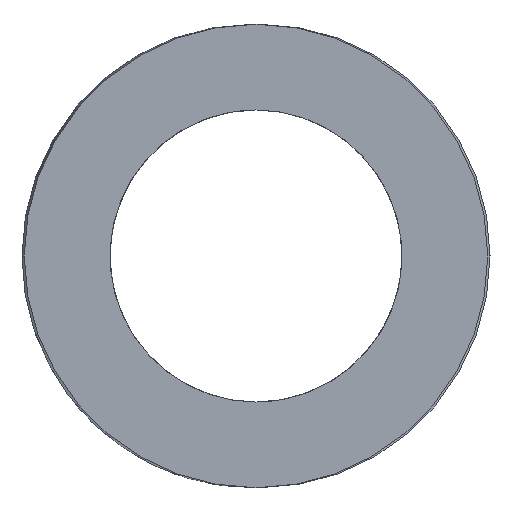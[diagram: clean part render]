
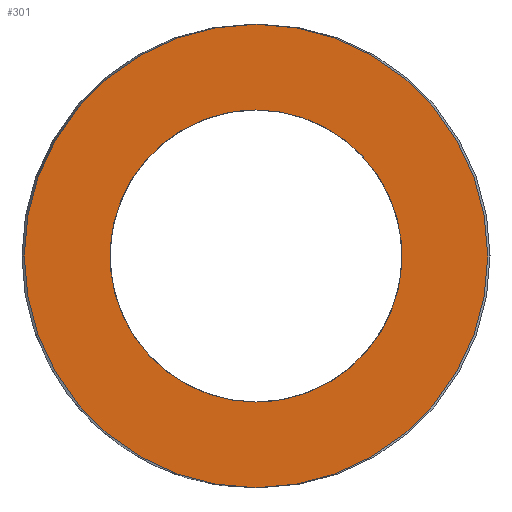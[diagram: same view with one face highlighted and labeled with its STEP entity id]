
A CAD part, left-side view. The second image highlights one B-rep face of the part: STEP entity #301.
In plain terms, the highlighted planar face has unit normal (-1, 0, 0).
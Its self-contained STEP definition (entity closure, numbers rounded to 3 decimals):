
#63=CARTESIAN_POINT('Vertex',(0.,31.1,0.)) ;
#77=CARTESIAN_POINT('Vertex',(0.,-31.1,0.)) ;
#80=CARTESIAN_POINT('Axis2P3D Location',(0.,0.,0.)) ;
#97=CARTESIAN_POINT('Axis2P3D Location',(0.,0.,0.)) ;
#232=CARTESIAN_POINT('Axis2P3D Location',(0.,15.55,0.)) ;
#242=CARTESIAN_POINT('Control Point',(0.,0.,-19.6)) ;
#243=CARTESIAN_POINT('Control Point',(0.,1.952,-19.6)) ;
#244=CARTESIAN_POINT('Control Point',(0.,3.904,-19.357)) ;
#245=CARTESIAN_POINT('Control Point',(0.,5.816,-18.871)) ;
#246=CARTESIAN_POINT('Control Point',(0.,9.478,-17.433)) ;
#247=CARTESIAN_POINT('Control Point',(0.,12.675,-15.142)) ;
#248=CARTESIAN_POINT('Control Point',(0.,14.123,-13.802)) ;
#249=CARTESIAN_POINT('Control Point',(0.,16.653,-10.789)) ;
#250=CARTESIAN_POINT('Control Point',(0.,18.368,-7.249)) ;
#251=CARTESIAN_POINT('Control Point',(0.,19.,-5.38)) ;
#252=CARTESIAN_POINT('Control Point',(0.,19.784,-1.525)) ;
#253=CARTESIAN_POINT('Control Point',(0.,19.6,2.405)) ;
#254=CARTESIAN_POINT('Control Point',(0.,19.262,4.348)) ;
#255=CARTESIAN_POINT('Control Point',(0.,18.11,8.11)) ;
#256=CARTESIAN_POINT('Control Point',(0.,16.071,11.474)) ;
#257=CARTESIAN_POINT('Control Point',(0.,14.846,13.02)) ;
#258=CARTESIAN_POINT('Control Point',(0.,12.037,15.775)) ;
#259=CARTESIAN_POINT('Control Point',(0.,8.639,17.757)) ;
#260=CARTESIAN_POINT('Control Point',(0.,6.824,18.53)) ;
#261=CARTESIAN_POINT('Control Point',(0.,4.349,19.236)) ;
#262=CARTESIAN_POINT('Control Point',(0.,1.809,19.53)) ;
#263=CARTESIAN_POINT('Control Point',(0.,1.206,19.577)) ;
#264=CARTESIAN_POINT('Control Point',(0.,0.603,19.6)) ;
#265=CARTESIAN_POINT('Control Point',(0.,0.,19.6)) ;
#266=CARTESIAN_POINT('Vertex',(0.,0.,-19.6)) ;
#268=CARTESIAN_POINT('Vertex',(0.,0.,19.6)) ;
#272=CARTESIAN_POINT('Control Point',(0.,0.,19.6)) ;
#273=CARTESIAN_POINT('Control Point',(0.,-1.952,19.6)) ;
#274=CARTESIAN_POINT('Control Point',(0.,-3.904,19.357)) ;
#275=CARTESIAN_POINT('Control Point',(0.,-5.816,18.871)) ;
#276=CARTESIAN_POINT('Control Point',(0.,-9.478,17.433)) ;
#277=CARTESIAN_POINT('Control Point',(0.,-12.675,15.142)) ;
#278=CARTESIAN_POINT('Control Point',(0.,-14.123,13.802)) ;
#279=CARTESIAN_POINT('Control Point',(0.,-16.653,10.789)) ;
#280=CARTESIAN_POINT('Control Point',(0.,-18.368,7.249)) ;
#281=CARTESIAN_POINT('Control Point',(0.,-19.,5.38)) ;
#282=CARTESIAN_POINT('Control Point',(0.,-19.784,1.525)) ;
#283=CARTESIAN_POINT('Control Point',(0.,-19.6,-2.405)) ;
#284=CARTESIAN_POINT('Control Point',(0.,-19.262,-4.348)) ;
#285=CARTESIAN_POINT('Control Point',(0.,-18.11,-8.11)) ;
#286=CARTESIAN_POINT('Control Point',(0.,-16.071,-11.474)) ;
#287=CARTESIAN_POINT('Control Point',(0.,-14.846,-13.02)) ;
#288=CARTESIAN_POINT('Control Point',(0.,-12.037,-15.775)) ;
#289=CARTESIAN_POINT('Control Point',(0.,-8.639,-17.757)) ;
#290=CARTESIAN_POINT('Control Point',(0.,-6.824,-18.53)) ;
#291=CARTESIAN_POINT('Control Point',(0.,-4.349,-19.236)) ;
#292=CARTESIAN_POINT('Control Point',(0.,-1.809,-19.53)) ;
#293=CARTESIAN_POINT('Control Point',(0.,-1.206,-19.577)) ;
#294=CARTESIAN_POINT('Control Point',(0.,-0.603,-19.6)) ;
#295=CARTESIAN_POINT('Control Point',(0.,0.,-19.6)) ;
#81=DIRECTION('Axis2P3D Direction',(1.,-0.,0.)) ;
#98=DIRECTION('Axis2P3D Direction',(1.,-0.,0.)) ;
#233=DIRECTION('Axis2P3D Direction',(-1.,0.,0.)) ;
#234=DIRECTION('Axis2P3D XDirection',(0.,1.,0.)) ;
#82=AXIS2_PLACEMENT_3D('Circle Axis2P3D',#80,#81,$) ;
#99=AXIS2_PLACEMENT_3D('Circle Axis2P3D',#97,#98,$) ;
#235=AXIS2_PLACEMENT_3D('Plane Axis2P3D',#232,#233,#234) ;
#238=ORIENTED_EDGE('',*,*,#84,.T.) ;
#239=ORIENTED_EDGE('',*,*,#101,.T.) ;
#298=ORIENTED_EDGE('',*,*,#270,.T.) ;
#299=ORIENTED_EDGE('',*,*,#296,.T.) ;
#300=FACE_BOUND('',#297,.T.) ;
#301=ADVANCED_FACE('392-B63-178',(#240,#300),#236,.T.) ;
#241=B_SPLINE_CURVE_WITH_KNOTS('',5,(#242,#243,#244,#245,#246,#247,#248,#249,#250,#251,#252,#253,#254,#255,#256,#257,#258,#259,#260,#261,#262,#263,#264,#265),.UNSPECIFIED.,.F.,.U.,(6,3,3,3,3,3,3,6),(0.,13.802,27.605,41.407,55.21,69.012,82.815,87.077),.UNSPECIFIED.) ;
#271=B_SPLINE_CURVE_WITH_KNOTS('',5,(#272,#273,#274,#275,#276,#277,#278,#279,#280,#281,#282,#283,#284,#285,#286,#287,#288,#289,#290,#291,#292,#293,#294,#295),.UNSPECIFIED.,.F.,.U.,(6,3,3,3,3,3,3,6),(0.,13.802,27.605,41.407,55.21,69.012,82.815,87.077),.UNSPECIFIED.) ;
#83=CIRCLE('generated circle',#82,31.1) ;
#100=CIRCLE('generated circle',#99,31.1) ;
#84=EDGE_CURVE('',#64,#78,#83,.F.) ;
#101=EDGE_CURVE('',#78,#64,#100,.F.) ;
#270=EDGE_CURVE('',#267,#269,#241,.T.) ;
#296=EDGE_CURVE('',#269,#267,#271,.T.) ;
#237=EDGE_LOOP('',(#238,#239)) ;
#297=EDGE_LOOP('',(#298,#299)) ;
#240=FACE_OUTER_BOUND('',#237,.T.) ;
#236=PLANE('Plane',#235) ;
#64=VERTEX_POINT('',#63) ;
#78=VERTEX_POINT('',#77) ;
#267=VERTEX_POINT('',#266) ;
#269=VERTEX_POINT('',#268) ;
